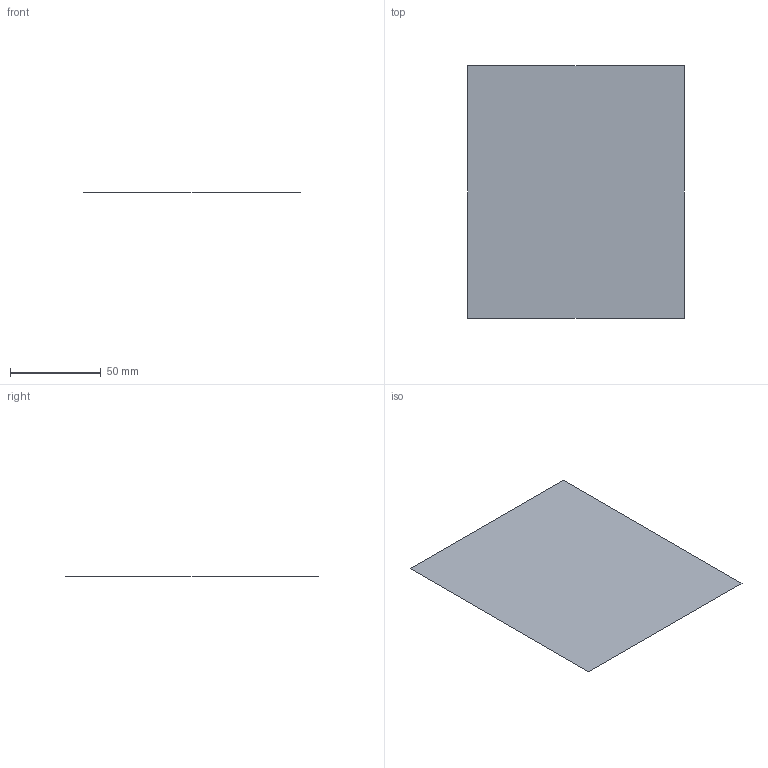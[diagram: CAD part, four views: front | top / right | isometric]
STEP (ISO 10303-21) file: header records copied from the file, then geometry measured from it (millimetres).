
FILE_DESCRIPTION(('CATIA V5 STEP Exchange'),'2;1');
FILE_NAME('C:\_Andres\UNIVERSIDAD\IQS\ASIGNATURAS\DAO\EXF\EXF-15161c\1original\Wand_Domenech_Ej06-calculo_v29.stp','2016-03-04T20:57:44+00:00',('none'),('none'),'CATIA Version 5 Release 20 SP 1 (IN-10)','CATIA V5 STEP AP203','none');
FILE_SCHEMA(('CONFIG_CONTROL_DESIGN'));
Length unit declared in the file: millimetre
Products named in the file (1): Wand_Domenech_Ej06-calculo_v29
Bounding box: 119 x 139 x 0 mm (x, y, z)
Surface area: 16541 mm2 (no closed solid volume)
Topology: 0 solids, 1 shells, 1 faces, 8 edges, 9 vertices
Faces by surface type: plane 1
Entity records: 130 total; most frequent: CARTESIAN_POINT 23, DIRECTION 12, VECTOR 8, LINE 8, COMPOSITE_CURVE_SEGMENT 4, ORIENTED_EDGE 4, CC_DESIGN_PERSON_AND_ORGANIZATION_ASSIGNMENT 4, PERSON_AND_ORGANIZATION_ROLE 4
